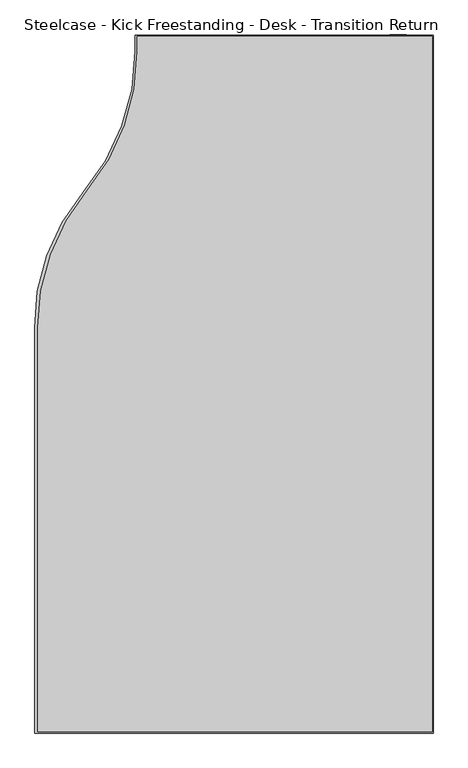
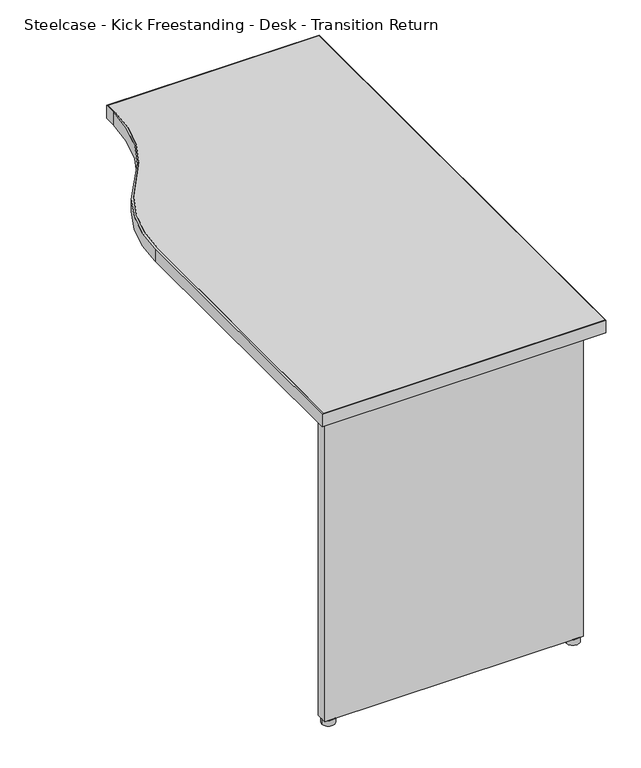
"""IFC4 building model written with IfcOpenShell, lengths in millimetres: furniture geometry, Steelcase - Kick Freestanding - Desk - Transition Return : 18D x 42W - Right - Half Panel."""

from ifc_helpers import new_model, si_unit, point, frame, frame_2d, origin, origin_with_axes, place, context, project, spatial, polyline, circle_curve, trimmed, segment, composite_curve, outline, extrude, source, transform, mapped, element, save


def steelcase_kick_freestanding_desk_transition_return_b45fcc6d(model_context):
    return source(origin(), model_context, "Body", "SweptSolid", [
        extrude(outline(composite_curve([segment(polyline([(1707.9294594, -546.8145152), (2163.8594425, -546.8145152), (2163.8594425, -1613.6145152), (1554.2594425, -1613.6145152), (1554.2594425, -994.1085152)]), True, "CONTINUOUS"), segment(trimmed(circle_curve(frame_2d((1864.0239413, -987.7058619)), 309.8306613), [point((1554.2594425, -994.1085152))], [point((1628.457587, -786.4509703))], False, "CARTESIAN"), True, "CONTINUOUS"), segment(trimmed(circle_curve(frame_2d((1376.3728371, -571.0836731)), 331.5566223), [point((1628.457587, -786.4509703))], [point((1707.9294594, -571.0836731))], True, "CARTESIAN"), True, "CONTINUOUS"), segment(polyline([(1707.9294594, -571.0836731), (1707.9294594, -546.8145152)]), True, "CONTINUOUS")], self_intersect=False), holes=[composite_curve([segment(polyline([(1710.9012257, -547.8051152), (1710.9012257, -572.1320079)]), True, "CONTINUOUS"), segment(trimmed(circle_curve(frame_2d((1386.0725345, -574.5942763)), 324.8380233), [point((1710.9012257, -572.1320079))], [point((1635.1600947, -783.1011797))], False, "CARTESIAN"), True, "CONTINUOUS"), segment(trimmed(circle_curve(frame_2d((1887.2347336, -994.1085152)), 328.7335079), [point((1635.1600947, -783.1011797))], [point((1558.5012257, -994.1085152))], True, "CARTESIAN"), True, "CONTINUOUS"), segment(polyline([(1558.5012257, -994.1085152), (1558.5012257, -1611.8619332), (2162.8688425, -1611.8619332), (2162.8688425, -547.8051152), (1710.9012257, -547.8051152)]), True, "CONTINUOUS")], self_intersect=False)]), frame((0.0, 0.0, 694.944), z_axis=(0.0, 0.0, 1.0), x_axis=(1.0, 0.0, 0.0)), (0.0, 0.0, 1.0), 28.956),
        extrude(outline(composite_curve([segment(polyline([(2162.8688425, -547.8051152), (2162.8688425, -1611.8619332), (1558.5012257, -1611.8619332), (1558.5012257, -994.1085152)]), True, "CONTINUOUS"), segment(trimmed(circle_curve(frame_2d((1887.2347336, -994.1085152)), 328.7335079), [point((1558.5012257, -994.1085152))], [point((1635.1600947, -783.1011797))], False, "CARTESIAN"), True, "CONTINUOUS"), segment(trimmed(circle_curve(frame_2d((1386.0725345, -574.5942763)), 324.8380233), [point((1635.1600947, -783.1011797))], [point((1710.9012257, -572.1320079))], True, "CARTESIAN"), True, "CONTINUOUS"), segment(polyline([(1710.9012257, -572.1320079), (1710.9012257, -547.8051152), (2162.8688425, -547.8051152)]), True, "CONTINUOUS")], self_intersect=False)), frame((0.0, 0.0, 694.944), z_axis=(0.0, 0.0, 1.0), x_axis=(1.0, 0.0, 0.0)), (0.0, 0.0, 1.0), 28.956),
        extrude(outline(composite_curve([segment(trimmed(circle_curve(frame_2d((2107.4714425, -1588.3669041)), 13.97), [point((2121.4414425, -1588.3669041))], [point((2093.5014425, -1588.3669041))], False, "CARTESIAN"), True, "CONTINUOUS"), segment(trimmed(circle_curve(frame_2d((2107.4714425, -1588.3669041)), 13.97), [point((2093.5014425, -1588.3669041))], [point((2121.4414425, -1588.3669041))], False, "CARTESIAN"), True, "CONTINUOUS")], self_intersect=False)), origin_with_axes(), (0.0, 0.0, 1.0), 12.7),
        extrude(outline(composite_curve([segment(trimmed(circle_curve(frame_2d((1582.4534425, -1588.3669041)), 13.97), [point((1596.4234425, -1588.3669041))], [point((1568.4834425, -1588.3669041))], False, "CARTESIAN"), True, "CONTINUOUS"), segment(trimmed(circle_curve(frame_2d((1582.4534425, -1588.3669041)), 13.97), [point((1568.4834425, -1588.3669041))], [point((1596.4234425, -1588.3669041))], False, "CARTESIAN"), True, "CONTINUOUS")], self_intersect=False)), origin_with_axes(), (0.0, 0.0, 1.0), 12.7),
        extrude(outline(polyline([(2122.7114425, -1575.6669041), (2122.7114425, -1600.1525152), (1568.2294473, -1600.1525152), (1568.2294473, -1575.6669041), (1691.2670317, -1575.6669041), (1691.2670317, -1598.0951136), (1790.9874347, -1598.0951136), (1790.9874347, -1575.6669041), (1899.7248382, -1575.6669041), (1899.7248382, -1598.0951136), (1999.4452412, -1598.0951136), (1999.4452412, -1575.6669041), (2122.7114425, -1575.6669041)])), frame((0.0, 0.0, 12.7), z_axis=(0.0, 0.0, 1.0), x_axis=(1.0, 0.0, 0.0)), (0.0, 0.0, 1.0), 682.244),
        extrude(outline(polyline([(2097.3114424, -546.0525152), (2122.7114425, -546.0525152), (2122.7114425, -1575.6669041), (2097.3114424, -1575.6669041), (2097.3114424, -546.0525152)])), frame((0.0, 0.0, 390.144), z_axis=(0.0, 0.0, 1.0), x_axis=(1.0, 0.0, 0.0)), (0.0, 0.0, 1.0), 304.8),
    ])


if __name__ == "__main__":
    model = new_model("IFC4")
    model_context = context("Model", 3, world=origin())
    ifc_project = project(units=[si_unit("LENGTHUNIT", "METRE", prefix="MILLI")], contexts=[model_context])
    site = spatial("IfcSite", under=ifc_project)
    building = spatial("IfcBuilding", under=site)
    placement = place(None, origin())
    steelcase_kick_freestanding_desk_transition_return_shape = steelcase_kick_freestanding_desk_transition_return_b45fcc6d(model_context)
    element("IfcFurniture", 1, ObjectType="Steelcase - Kick Freestanding - Desk - Transition Return : 18D x 42W - Right - Half Panel", at=placement, inside=building, context=model_context, shape_type="MappedRepresentation", body=[
        mapped(steelcase_kick_freestanding_desk_transition_return_shape, transform((0.0, 0.0, 0.0), x_axis=(1.0, 0.0, 0.0), y_axis=(0.0, 1.0, 0.0), z_axis=(0.0, 0.0, 1.0))),
    ])
    save(model, "model.ifc")
